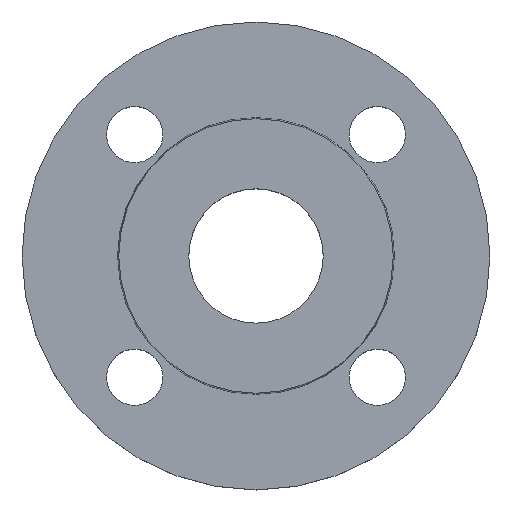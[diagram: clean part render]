
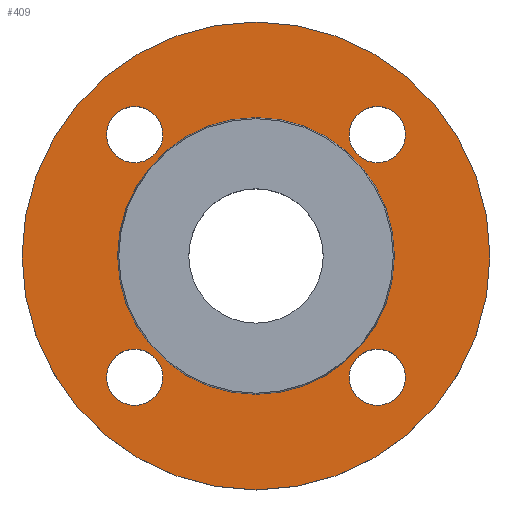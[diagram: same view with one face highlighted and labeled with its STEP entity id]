
A CAD part, top view. The second image highlights one B-rep face of the part: STEP entity #409.
In plain terms, the highlighted planar face has unit normal (0, 0, 1).
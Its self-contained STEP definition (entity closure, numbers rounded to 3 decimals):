
#2 = AXIS2_PLACEMENT_3D ( 'NONE', #227, #223, #221 ) ;
#3 = EDGE_CURVE ( 'NONE', #653, #598, #360, .T. ) ;
#4 = CIRCLE ( 'NONE', #5, 9. ) ;
#5 = AXIS2_PLACEMENT_3D ( 'NONE', #219, #214, #213 ) ;
#11 = CIRCLE ( 'NONE', #12, 44.353 ) ;
#12 = AXIS2_PLACEMENT_3D ( 'NONE', #192, #191, #190 ) ;
#20 = EDGE_CURVE ( 'NONE', #413, #640, #222, .T. ) ;
#28 = AXIS2_PLACEMENT_3D ( 'NONE', #823, #824, #341 ) ;
#34 = AXIS2_PLACEMENT_3D ( 'NONE', #157, #156, #155 ) ;
#36 = CIRCLE ( 'NONE', #34, 75. ) ;
#46 = AXIS2_PLACEMENT_3D ( 'NONE', #98, #97, #96 ) ;
#60 = CARTESIAN_POINT ( 'NONE',  ( 38.891, -38.891, -2. ) ) ;
#61 = DIRECTION ( 'NONE',  ( 0., 0., -1. ) ) ;
#63 = DIRECTION ( 'NONE',  ( 1., 0., 0. ) ) ;
#96 = DIRECTION ( 'NONE',  ( 1., 0., 0. ) ) ;
#97 = DIRECTION ( 'NONE',  ( 0., 0., -1. ) ) ;
#98 = CARTESIAN_POINT ( 'NONE',  ( -38.891, -38.891, -2. ) ) ;
#102 = AXIS2_PLACEMENT_3D ( 'NONE', #799, #800, #801 ) ;
#123 = CARTESIAN_POINT ( 'NONE',  ( 47.891, 38.891, -2. ) ) ;
#125 = CARTESIAN_POINT ( 'NONE',  ( 44.353, 0., -2. ) ) ;
#129 = CARTESIAN_POINT ( 'NONE',  ( 29.891, 38.891, -2. ) ) ;
#135 = CARTESIAN_POINT ( 'NONE',  ( 75., 0., -2. ) ) ;
#136 = CARTESIAN_POINT ( 'NONE',  ( -29.891, 38.891, -2. ) ) ;
#138 = CARTESIAN_POINT ( 'NONE',  ( 47.891, -38.891, -2. ) ) ;
#139 = CARTESIAN_POINT ( 'NONE',  ( -29.891, -38.891, -2. ) ) ;
#148 = CARTESIAN_POINT ( 'NONE',  ( -47.891, 38.891, -2. ) ) ;
#155 = DIRECTION ( 'NONE',  ( -1., 0., 0. ) ) ;
#156 = DIRECTION ( 'NONE',  ( 0., 0., -1. ) ) ;
#157 = CARTESIAN_POINT ( 'NONE',  ( 0., 0., -2. ) ) ;
#167 = CIRCLE ( 'NONE', #307, 9. ) ;
#172 = CARTESIAN_POINT ( 'NONE',  ( -75., 0., -2. ) ) ;
#174 = CARTESIAN_POINT ( 'NONE',  ( -44.353, 0., -2. ) ) ;
#190 = DIRECTION ( 'NONE',  ( -1., 0., 0. ) ) ;
#191 = DIRECTION ( 'NONE',  ( 0., 0., -1. ) ) ;
#192 = CARTESIAN_POINT ( 'NONE',  ( 0., 0., -2. ) ) ;
#207 = CIRCLE ( 'NONE', #2, 9. ) ;
#213 = DIRECTION ( 'NONE',  ( 1., 0., 0. ) ) ;
#214 = DIRECTION ( 'NONE',  ( 0., 0., -1. ) ) ;
#219 = CARTESIAN_POINT ( 'NONE',  ( -38.891, 38.891, -2. ) ) ;
#221 = DIRECTION ( 'NONE',  ( 1., 0., 0. ) ) ;
#222 = CIRCLE ( 'NONE', #340, 9. ) ;
#223 = DIRECTION ( 'NONE',  ( 0., 0., -1. ) ) ;
#226 = DIRECTION ( 'NONE',  ( 1., 0., 0. ) ) ;
#227 = CARTESIAN_POINT ( 'NONE',  ( 38.891, -38.891, -2. ) ) ;
#228 = DIRECTION ( 'NONE',  ( 0., 0., -1. ) ) ;
#230 = CARTESIAN_POINT ( 'NONE',  ( 38.891, 38.891, -2. ) ) ;
#239 = DIRECTION ( 'NONE',  ( 1., 0., 0. ) ) ;
#240 = CIRCLE ( 'NONE', #102, 9. ) ;
#245 = CARTESIAN_POINT ( 'NONE',  ( 29.891, -38.891, -2. ) ) ;
#253 = CARTESIAN_POINT ( 'NONE',  ( 44.353, 0., -2. ) ) ;
#254 = AXIS2_PLACEMENT_3D ( 'NONE', #230, #228, #226 ) ;
#258 = FACE_OUTER_BOUND ( 'NONE', #643, .T. ) ;
#260 = FACE_BOUND ( 'NONE', #572, .T. ) ;
#262 = CIRCLE ( 'NONE', #254, 9. ) ;
#264 = FACE_BOUND ( 'NONE', #488, .T. ) ;
#266 = PLANE ( 'NONE',  #527 ) ;
#269 = DIRECTION ( 'NONE',  ( 1., 0., 0. ) ) ;
#270 = DIRECTION ( 'NONE',  ( 0., 0., -1. ) ) ;
#274 = CARTESIAN_POINT ( 'NONE',  ( -38.891, 38.891, -2. ) ) ;
#280 = EDGE_CURVE ( 'NONE', #655, #651, #240, .T. ) ;
#281 = CARTESIAN_POINT ( 'NONE',  ( -47.891, -38.891, -2. ) ) ;
#283 = EDGE_CURVE ( 'NONE', #647, #604, #570, .T. ) ;
#290 = FACE_BOUND ( 'NONE', #639, .T. ) ;
#307 = AXIS2_PLACEMENT_3D ( 'NONE', #274, #270, #269 ) ;
#316 = EDGE_CURVE ( 'NONE', #638, #421, #533, .T. ) ;
#340 = AXIS2_PLACEMENT_3D ( 'NONE', #60, #61, #63 ) ;
#341 = DIRECTION ( 'NONE',  ( 1., 0., 0. ) ) ;
#360 = CIRCLE ( 'NONE', #622, 44.353 ) ;
#391 = FACE_BOUND ( 'NONE', #646, .T. ) ;
#409 = ADVANCED_FACE ( 'NONE', ( #264, #412, #260, #290, #391, #258 ), #266, .T. ) ;
#412 = FACE_BOUND ( 'NONE', #662, .T. ) ;
#413 = VERTEX_POINT ( 'NONE', #245 ) ;
#417 = EDGE_CURVE ( 'NONE', #633, #645, #167, .T. ) ;
#421 = VERTEX_POINT ( 'NONE', #281 ) ;
#482 = DIRECTION ( 'NONE',  ( 0., 0., 1. ) ) ;
#488 = EDGE_LOOP ( 'NONE', ( #573, #574 ) ) ;
#523 = EDGE_CURVE ( 'NONE', #651, #655, #262, .T. ) ;
#527 = AXIS2_PLACEMENT_3D ( 'NONE', #253, #482, #239 ) ;
#528 = EDGE_CURVE ( 'NONE', #640, #413, #207, .T. ) ;
#532 = EDGE_CURVE ( 'NONE', #645, #633, #4, .T. ) ;
#533 = CIRCLE ( 'NONE', #28, 9. ) ;
#560 = AXIS2_PLACEMENT_3D ( 'NONE', #802, #803, #804 ) ;
#570 = CIRCLE ( 'NONE', #560, 75. ) ;
#572 = EDGE_LOOP ( 'NONE', ( #578, #579 ) ) ;
#573 = ORIENTED_EDGE ( 'NONE', *, *, #528, .T. ) ;
#574 = ORIENTED_EDGE ( 'NONE', *, *, #20, .T. ) ;
#575 = ORIENTED_EDGE ( 'NONE', *, *, #316, .T. ) ;
#576 = ORIENTED_EDGE ( 'NONE', *, *, #707, .T. ) ;
#578 = ORIENTED_EDGE ( 'NONE', *, *, #532, .T. ) ;
#579 = ORIENTED_EDGE ( 'NONE', *, *, #417, .T. ) ;
#580 = ORIENTED_EDGE ( 'NONE', *, *, #280, .T. ) ;
#581 = ORIENTED_EDGE ( 'NONE', *, *, #523, .T. ) ;
#582 = ORIENTED_EDGE ( 'NONE', *, *, #584, .T. ) ;
#583 = ORIENTED_EDGE ( 'NONE', *, *, #3, .T. ) ;
#584 = EDGE_CURVE ( 'NONE', #598, #653, #11, .T. ) ;
#586 = ORIENTED_EDGE ( 'NONE', *, *, #283, .F. ) ;
#587 = ORIENTED_EDGE ( 'NONE', *, *, #625, .F. ) ;
#598 = VERTEX_POINT ( 'NONE', #174 ) ;
#604 = VERTEX_POINT ( 'NONE', #172 ) ;
#614 = CIRCLE ( 'NONE', #46, 9. ) ;
#622 = AXIS2_PLACEMENT_3D ( 'NONE', #684, #685, #686 ) ;
#625 = EDGE_CURVE ( 'NONE', #604, #647, #36, .T. ) ;
#633 = VERTEX_POINT ( 'NONE', #148 ) ;
#638 = VERTEX_POINT ( 'NONE', #139 ) ;
#639 = EDGE_LOOP ( 'NONE', ( #580, #581 ) ) ;
#640 = VERTEX_POINT ( 'NONE', #138 ) ;
#643 = EDGE_LOOP ( 'NONE', ( #586, #587 ) ) ;
#645 = VERTEX_POINT ( 'NONE', #136 ) ;
#646 = EDGE_LOOP ( 'NONE', ( #582, #583 ) ) ;
#647 = VERTEX_POINT ( 'NONE', #135 ) ;
#651 = VERTEX_POINT ( 'NONE', #129 ) ;
#653 = VERTEX_POINT ( 'NONE', #125 ) ;
#655 = VERTEX_POINT ( 'NONE', #123 ) ;
#662 = EDGE_LOOP ( 'NONE', ( #575, #576 ) ) ;
#684 = CARTESIAN_POINT ( 'NONE',  ( 0., 0., -2. ) ) ;
#685 = DIRECTION ( 'NONE',  ( 0., 0., -1. ) ) ;
#686 = DIRECTION ( 'NONE',  ( -1., 0., 0. ) ) ;
#707 = EDGE_CURVE ( 'NONE', #421, #638, #614, .T. ) ;
#799 = CARTESIAN_POINT ( 'NONE',  ( 38.891, 38.891, -2. ) ) ;
#800 = DIRECTION ( 'NONE',  ( 0., 0., -1. ) ) ;
#801 = DIRECTION ( 'NONE',  ( 1., 0., 0. ) ) ;
#802 = CARTESIAN_POINT ( 'NONE',  ( 0., 0., -2. ) ) ;
#803 = DIRECTION ( 'NONE',  ( 0., 0., -1. ) ) ;
#804 = DIRECTION ( 'NONE',  ( -1., 0., 0. ) ) ;
#823 = CARTESIAN_POINT ( 'NONE',  ( -38.891, -38.891, -2. ) ) ;
#824 = DIRECTION ( 'NONE',  ( 0., 0., -1. ) ) ;
